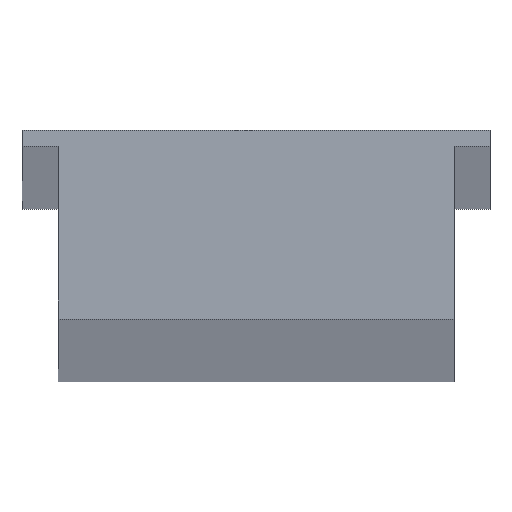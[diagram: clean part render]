
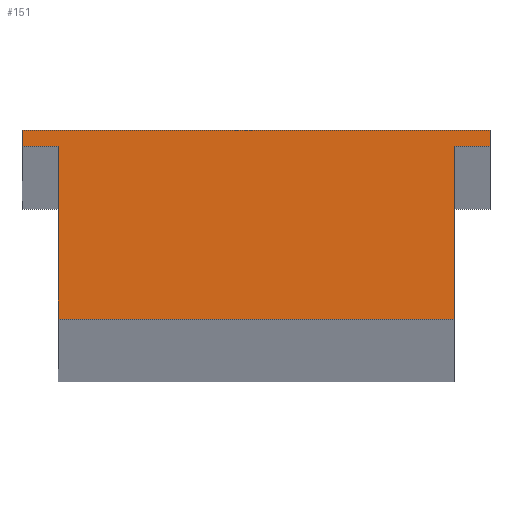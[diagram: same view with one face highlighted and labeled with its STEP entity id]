
A CAD part, top view. The second image highlights one B-rep face of the part: STEP entity #151.
In plain terms, the highlighted planar face has unit normal (0, 0, 1).
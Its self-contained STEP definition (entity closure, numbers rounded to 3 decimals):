
#27 = CARTESIAN_POINT ( 'NONE',  ( -11., 9.6, 2000. ) ) ;
#28 = VECTOR ( 'NONE', #348, 1000. ) ;
#33 = EDGE_CURVE ( 'NONE', #51, #211, #101, .T. ) ;
#39 = LINE ( 'NONE', #229, #28 ) ;
#40 = EDGE_LOOP ( 'NONE', ( #150, #135, #230, #366, #207, #338, #295, #69 ) ) ;
#50 = DIRECTION ( 'NONE',  ( 0., 1., 0. ) ) ;
#51 = VERTEX_POINT ( 'NONE', #133 ) ;
#59 = DIRECTION ( 'NONE',  ( 0., 0., 1. ) ) ;
#61 = AXIS2_PLACEMENT_3D ( 'NONE', #368, #59, #222 ) ;
#65 = VERTEX_POINT ( 'NONE', #277 ) ;
#69 = ORIENTED_EDGE ( 'NONE', *, *, #258, .T. ) ;
#74 = VERTEX_POINT ( 'NONE', #27 ) ;
#75 = LINE ( 'NONE', #313, #99 ) ;
#79 = VECTOR ( 'NONE', #119, 1000. ) ;
#81 = EDGE_CURVE ( 'NONE', #334, #51, #251, .T. ) ;
#84 = VECTOR ( 'NONE', #254, 1000. ) ;
#90 = DIRECTION ( 'NONE',  ( 0., -1., 0. ) ) ;
#95 = EDGE_CURVE ( 'NONE', #332, #65, #195, .T. ) ;
#99 = VECTOR ( 'NONE', #50, 1000. ) ;
#101 = LINE ( 'NONE', #336, #353 ) ;
#119 = DIRECTION ( 'NONE',  ( 0., -1., 0. ) ) ;
#133 = CARTESIAN_POINT ( 'NONE',  ( 13., 9.6, 2000. ) ) ;
#135 = ORIENTED_EDGE ( 'NONE', *, *, #367, .T. ) ;
#139 = EDGE_CURVE ( 'NONE', #321, #74, #257, .T. ) ;
#140 = CARTESIAN_POINT ( 'NONE',  ( 13., 10.5, 2000. ) ) ;
#150 = ORIENTED_EDGE ( 'NONE', *, *, #95, .T. ) ;
#151 = ADVANCED_FACE ( 'NONE', ( #314 ), #345, .T. ) ;
#153 = CARTESIAN_POINT ( 'NONE',  ( -11., 0., 2000. ) ) ;
#158 = VERTEX_POINT ( 'NONE', #193 ) ;
#162 = DIRECTION ( 'NONE',  ( 0., 1., 0. ) ) ;
#168 = CARTESIAN_POINT ( 'NONE',  ( -11., 0., 2000. ) ) ;
#193 = CARTESIAN_POINT ( 'NONE',  ( -13., 10.5, 2000. ) ) ;
#195 = LINE ( 'NONE', #168, #323 ) ;
#197 = CARTESIAN_POINT ( 'NONE',  ( 11., 9.6, 2000. ) ) ;
#205 = VECTOR ( 'NONE', #311, 1000. ) ;
#206 = CARTESIAN_POINT ( 'NONE',  ( -13., 10.5, 2000. ) ) ;
#207 = ORIENTED_EDGE ( 'NONE', *, *, #307, .T. ) ;
#211 = VERTEX_POINT ( 'NONE', #140 ) ;
#222 = DIRECTION ( 'NONE',  ( 1., 0., 0. ) ) ;
#229 = CARTESIAN_POINT ( 'NONE',  ( 13., 10.5, 2000. ) ) ;
#230 = ORIENTED_EDGE ( 'NONE', *, *, #81, .T. ) ;
#241 = EDGE_CURVE ( 'NONE', #158, #321, #326, .T. ) ;
#251 = LINE ( 'NONE', #197, #84 ) ;
#254 = DIRECTION ( 'NONE',  ( 1., 0., 0. ) ) ;
#257 = LINE ( 'NONE', #343, #205 ) ;
#258 = EDGE_CURVE ( 'NONE', #74, #332, #294, .T. ) ;
#264 = CARTESIAN_POINT ( 'NONE',  ( 11., 9.6, 2000. ) ) ;
#273 = VECTOR ( 'NONE', #90, 1000. ) ;
#277 = CARTESIAN_POINT ( 'NONE',  ( 11., 0., 2000. ) ) ;
#290 = DIRECTION ( 'NONE',  ( 1., 0., 0. ) ) ;
#294 = LINE ( 'NONE', #351, #273 ) ;
#295 = ORIENTED_EDGE ( 'NONE', *, *, #139, .T. ) ;
#296 = CARTESIAN_POINT ( 'NONE',  ( -13., 9.6, 2000. ) ) ;
#307 = EDGE_CURVE ( 'NONE', #211, #158, #39, .T. ) ;
#311 = DIRECTION ( 'NONE',  ( 1., 0., 0. ) ) ;
#313 = CARTESIAN_POINT ( 'NONE',  ( 11., 0., 2000. ) ) ;
#314 = FACE_OUTER_BOUND ( 'NONE', #40, .T. ) ;
#321 = VERTEX_POINT ( 'NONE', #296 ) ;
#323 = VECTOR ( 'NONE', #290, 1000. ) ;
#326 = LINE ( 'NONE', #206, #79 ) ;
#332 = VERTEX_POINT ( 'NONE', #153 ) ;
#334 = VERTEX_POINT ( 'NONE', #264 ) ;
#336 = CARTESIAN_POINT ( 'NONE',  ( 13., 9.6, 2000. ) ) ;
#338 = ORIENTED_EDGE ( 'NONE', *, *, #241, .T. ) ;
#343 = CARTESIAN_POINT ( 'NONE',  ( -13., 9.6, 2000. ) ) ;
#345 = PLANE ( 'NONE',  #61 ) ;
#348 = DIRECTION ( 'NONE',  ( -1., 0., 0. ) ) ;
#351 = CARTESIAN_POINT ( 'NONE',  ( -11., 9.6, 2000. ) ) ;
#353 = VECTOR ( 'NONE', #162, 1000. ) ;
#366 = ORIENTED_EDGE ( 'NONE', *, *, #33, .T. ) ;
#367 = EDGE_CURVE ( 'NONE', #65, #334, #75, .T. ) ;
#368 = CARTESIAN_POINT ( 'NONE',  ( 0., 0., 2000. ) ) ;
